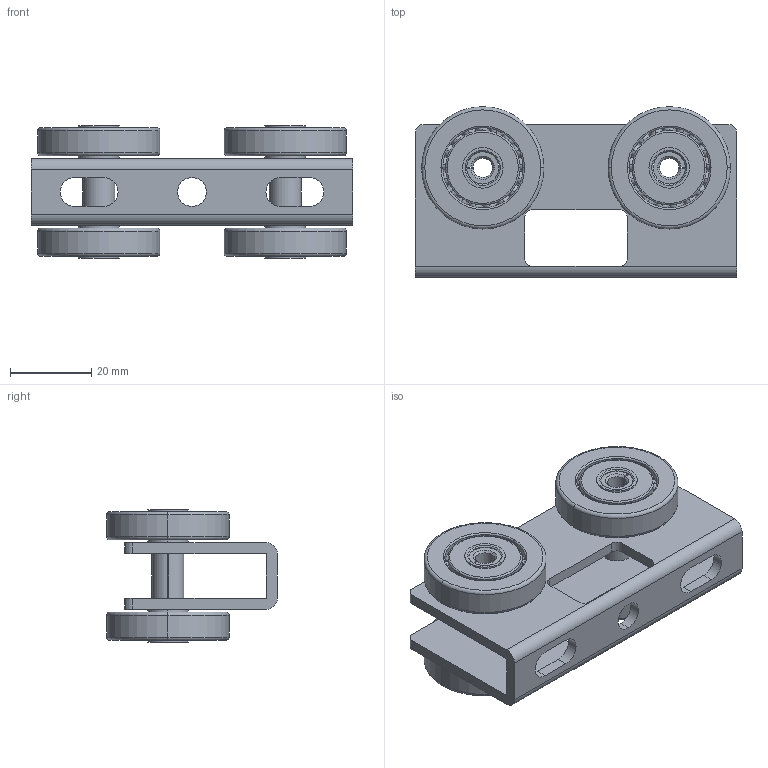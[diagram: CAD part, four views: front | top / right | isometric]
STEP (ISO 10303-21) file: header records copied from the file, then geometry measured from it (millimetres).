
FILE_DESCRIPTION (( 'STEP AP203' ), '1' );
FILE_NAME ('3626T15_Strut Channel Trolley.STEP', '2026-08-03T18:21:38', ( 'McMaster Carr Supply' ), ( 'McMaster Carr Supply' ), 'SwSTEP 2.0', 'SolidWorks 2024', '' );
FILE_SCHEMA (( 'CONFIG_CONTROL_DESIGN' ));
Length unit declared in the file: inch
Products named in the file (1): 3626T15_Strut Channel Trolley
Bounding box: 79.38 x 42.1 x 32.59 mm (x, y, z)
Volume: 34099.8 mm3; surface area: 30322.9 mm2
Topology: 79 solids, 79 shells, 370 faces, 1000 edges, 656 vertices
Faces by surface type: sphere 136, cylinder 96, torus 72, plane 52, cone 14
Entity records: 9275 total; most frequent: DIRECTION 1874, CARTESIAN_POINT 1483, ORIENTED_EDGE 1320, AXIS2_PLACEMENT_3D 843, EDGE_CURVE 660, CIRCLE 472, VERTEX_POINT 452, EDGE_LOOP 408
